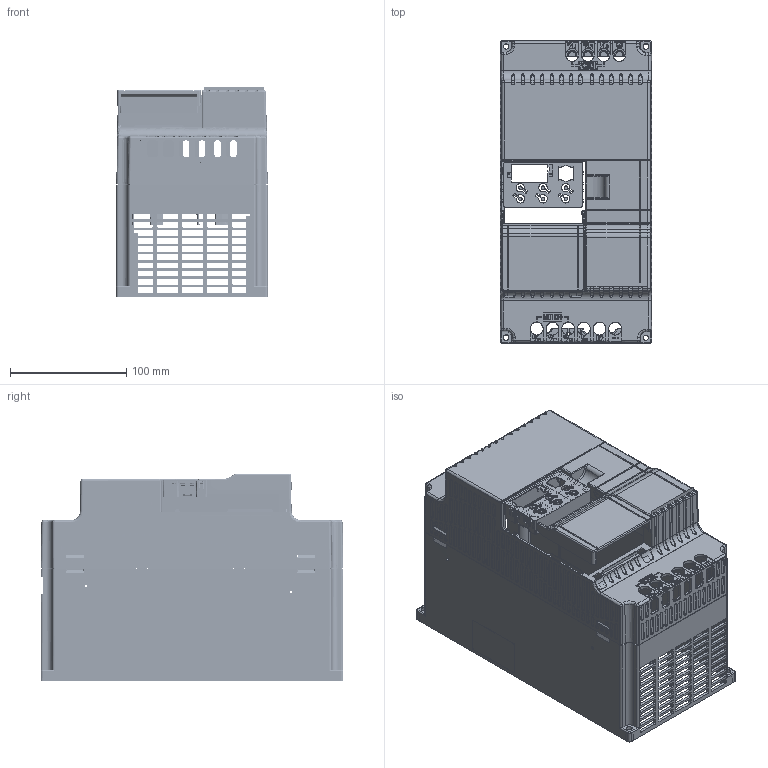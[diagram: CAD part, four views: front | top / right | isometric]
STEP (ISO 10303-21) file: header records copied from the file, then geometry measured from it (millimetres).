
FILE_DESCRIPTION (( 'STEP AP203' ), '1' );
FILE_NAME ('z2000-7_5_11kw (S13).STEP', '2019-05-24T13:43:10', ( '' ), ( '' ), 'SwSTEP 2.0', 'SolidWorks 2012', '' );
FILE_SCHEMA (( 'CONFIG_CONTROL_DESIGN' ));
Products named in the file (1): z2000-7_5_11kw (S13)
Bounding box: 130.03 x 260.03 x 181.08 mm (x, y, z)
Surface area: 381155.2 mm2 (no closed solid volume)
Topology: 0 solids, 23 shells, 5026 faces, 14324 edges, 9600 vertices
Faces by surface type: plane 3141, cylinder 1639, bspline 160, cone 84, torus 2
Entity records: 226544 total; most frequent: CARTESIAN_POINT 106955, ORIENTED_EDGE 28332, DIRECTION 18605, EDGE_CURVE 14303, VERTEX_POINT 9600, LINE 8089, VECTOR 8089, B_SPLINE_CURVE_WITH_KNOTS 5783
